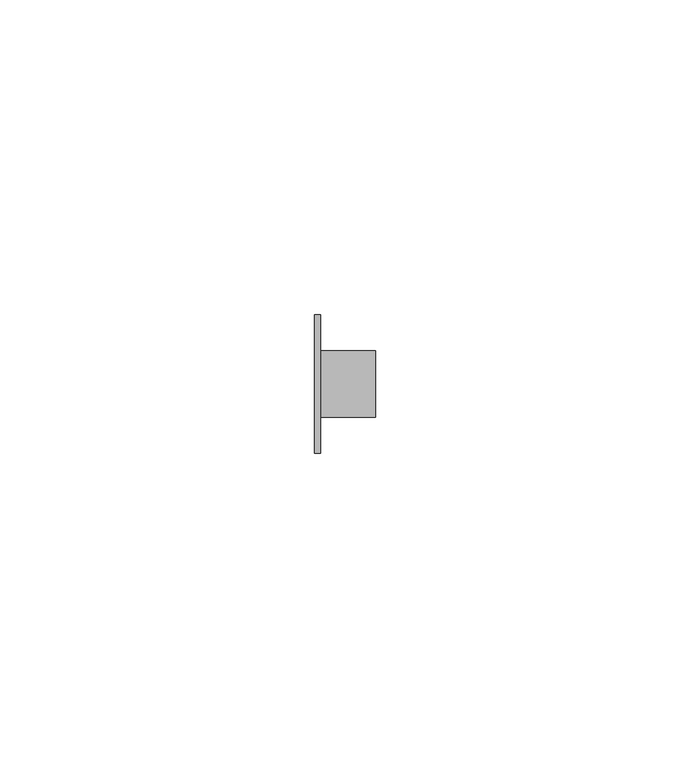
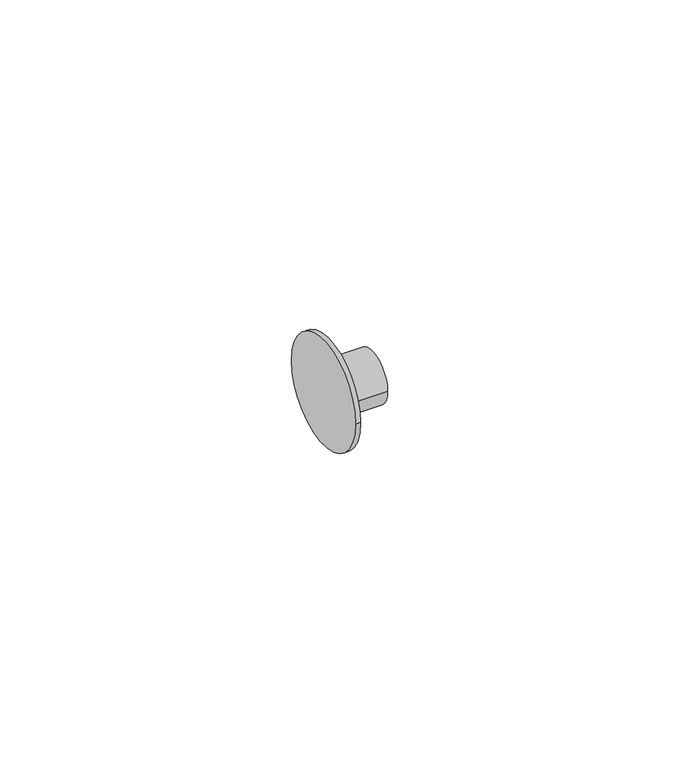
"""IFC4 building model written with IfcOpenShell, lengths in millimetres: pipe fitting geometry, Bucha de redução reta - Soldada - CU : Padrão."""

import ifcopenshell
import ifcopenshell.guid

model = None  # the IFC model being written
_history = None  # IfcOwnerHistory: only IFC2X3 demands one
_inside = {}  # id of a spatial element -> (the spatial element, [elements in it])
_under = {}  # id of a project, library or spatial element -> (it, [spatial elements below it])
_declared = {}  # id of a project -> (the project, [libraries it declares])
_typed = {}  # id of a type object -> (the type object, [elements of that type])
_made_of = {}  # id of a material, layer set ... -> (it, [elements and type objects made of it])


def new_model(schema):
    """Start an empty IFC model of exactly this schema.

    Asked for "IFC4X3", IfcOpenShell would pick the latest addendum, in which some entities
    have other attributes; the version numbers below select the first issue.
    IFC2X3 requires an IfcOwnerHistory on every rooted entity: one is made here for all.
    """
    global model, _history
    if schema == "IFC4X3":
        model = ifcopenshell.file(schema_version=(4, 3, 0, 0))
    else:
        model = ifcopenshell.file(schema=schema)
    _inside.clear()
    _under.clear()
    _declared.clear()
    _typed.clear()
    _made_of.clear()
    _history = None
    if model.schema == "IFC2X3":
        org = make("IfcOrganization", Name="unknown")
        user = make(
            "IfcPersonAndOrganization",
            ThePerson=make("IfcPerson", FamilyName="unknown"),
            TheOrganization=org,
        )
        app = make(
            "IfcApplication",
            ApplicationDeveloper=org,
            Version="unknown",
            ApplicationFullName="unknown",
            ApplicationIdentifier="unknown",
        )
        _history = make(
            "IfcOwnerHistory",
            OwningUser=user,
            OwningApplication=app,
            ChangeAction="ADDED",
            CreationDate=0,
        )
    return model


def make(cls, **values):
    """One entity of the class cls with the attributes given. An attribute that is None is left unset."""
    return model.create_entity(
        cls, **{name: value for name, value in values.items() if value is not None}
    )


def rooted(cls, **values):
    """An entity with a GlobalId (a new one), such as an element, a storey or a relation."""
    return make(cls, GlobalId=ifcopenshell.guid.new(), OwnerHistory=_history, **values)


def si_unit(unit_type, name, prefix=None):
    """IfcSIUnit, for example si_unit("LENGTHUNIT", "METRE", prefix="MILLI")."""
    return make("IfcSIUnit", UnitType=unit_type, Prefix=prefix, Name=name)


def assignment(units):
    """IfcUnitAssignment: the units of a project."""
    return None if units is None else make("IfcUnitAssignment", Units=units)


def point(xyz):
    """IfcCartesianPoint."""
    return None if xyz is None else make("IfcCartesianPoint", Coordinates=xyz)


def direction(xyz):
    """IfcDirection."""
    return None if xyz is None else make("IfcDirection", DirectionRatios=xyz)


def frame(location, z_axis=None, x_axis=None):
    """IfcAxis2Placement3D, a coordinate frame: its origin and axes. An axis left out is left unset."""
    return make(
        "IfcAxis2Placement3D",
        Location=point(location),
        Axis=direction(z_axis),
        RefDirection=direction(x_axis),
    )


def origin():
    """The frame at (0, 0, 0) with its axes left unset."""
    return frame((0.0, 0.0, 0.0))


def place(relative_to, where):
    """IfcLocalPlacement: puts the frame where relative to a parent placement (None: the world)."""
    return make(
        "IfcLocalPlacement", PlacementRelTo=relative_to, RelativePlacement=where
    )


def context(
    kind, dimensions, precision=None, world=None, true_north=None, identifier=None
):
    """IfcGeometricRepresentationContext, for example the 3D "Model" context."""
    return make(
        "IfcGeometricRepresentationContext",
        ContextIdentifier=identifier,
        ContextType=kind,
        CoordinateSpaceDimension=dimensions,
        Precision=precision,
        WorldCoordinateSystem=world,
        TrueNorth=true_north,
    )


def project(units=None, contexts=None):
    """IfcProject with its units and contexts."""
    return rooted(
        "IfcProject",
        Name="project",
        RepresentationContexts=contexts,
        UnitsInContext=assignment(units),
    )


def spatial(cls, under=None, at=None, **own):
    """A site, building, storey or space (cls), placed at a placement, below another one or the project."""
    s = rooted(cls, ObjectPlacement=at, **own)
    if under is not None:
        _under.setdefault(under.id(), (under, []))[1].append(s)
    return s


def circle_curve(where, radius):
    """IfcCircle in the frame where."""
    return make("IfcCircle", Position=where, Radius=radius)


def shape(context_of_items, identifier, shape_type, items):
    """IfcShapeRepresentation: the items that make up one representation, for example the "Body"."""
    return make(
        "IfcShapeRepresentation",
        ContextOfItems=context_of_items,
        RepresentationIdentifier=identifier,
        RepresentationType=shape_type,
        Items=items,
    )


def source(mapping_origin, context_of_items, identifier, shape_type, items):
    """IfcRepresentationMap: a shape defined once, which mapped items show again and again."""
    return make(
        "IfcRepresentationMap",
        MappingOrigin=mapping_origin,
        MappedRepresentation=shape(context_of_items, identifier, shape_type, items),
    )


def transform(
    local_origin,
    x_axis=None,
    y_axis=None,
    z_axis=None,
    scale=None,
    scale2=None,
    scale3=None,
    uniform=True,
):
    """IfcCartesianTransformationOperator3D, or its non-uniform kind. x_axis, y_axis, z_axis: its Axis1, 2, 3."""
    if uniform:
        return make(
            "IfcCartesianTransformationOperator3D",
            Axis1=direction(x_axis),
            Axis2=direction(y_axis),
            LocalOrigin=point(local_origin),
            Scale=scale,
            Axis3=direction(z_axis),
        )
    return make(
        "IfcCartesianTransformationOperator3DnonUniform",
        Axis1=direction(x_axis),
        Axis2=direction(y_axis),
        LocalOrigin=point(local_origin),
        Scale=scale,
        Axis3=direction(z_axis),
        Scale2=scale2,
        Scale3=scale3,
    )


def mapped(mapping_source, mapping_target):
    """IfcMappedItem: shows the shape of a source again, moved by a transform."""
    return make(
        "IfcMappedItem", MappingSource=mapping_source, MappingTarget=mapping_target
    )


def made_of(thing, what):
    """Note that an element or type object is made of a material, layer set ...; save() writes the relation."""
    if what is not None:
        _made_of.setdefault(what.id(), (what, []))[1].append(thing)
    return thing


def element(
    cls,
    number,
    at=None,
    inside=None,
    cuts=None,
    type_object=None,
    material=None,
    context=None,
    identifier="Body",
    shape_type=None,
    held_by="IfcProductDefinitionShape",
    body=None,
    shapes=None,
    **own,
):
    """One element of the class cls, such as IfcWall. Its Tag is "e" and its number.

    at: its placement. inside: the storey or other place that contains it. cuts: it is an
    opening in that element (IfcRelVoidsElement). A single representation is given by context,
    identifier, shape_type and body (its items); several are given by shapes. held_by: the class
    of the entity that holds the representations. save() writes the other relations.
    """
    e = rooted(cls, Tag="e%d" % number, ObjectPlacement=at, **own)
    if body is not None:
        shapes = [shape(context, identifier, shape_type, body)]
    if shapes is not None:
        e.Representation = make(held_by, Representations=shapes)
    if inside is not None:
        _inside.setdefault(inside.id(), (inside, []))[1].append(e)
    if cuts is not None:
        rooted(
            "IfcRelVoidsElement", RelatingBuildingElement=cuts, RelatedOpeningElement=e
        )
    if type_object is not None:
        _typed.setdefault(type_object.id(), (type_object, []))[1].append(e)
    return made_of(e, material)


def aggregate(whole, parts):
    """IfcRelAggregates: a whole, such as a stair, and the parts it consists of."""
    return rooted("IfcRelAggregates", RelatingObject=whole, RelatedObjects=parts)


def save(model, path):
    """Write the relations noted so far, then the file.

    IfcRelAggregates (storeys below a building ...), IfcRelContainedInSpatialStructure (elements
    in a storey), IfcRelDefinesByType, IfcRelAssociatesMaterial and IfcRelDeclares: one each for
    every whole, place, type object, material and project.
    """
    for whole, parts in _under.values():
        aggregate(whole, parts)
    for where, things in _inside.values():
        rooted(
            "IfcRelContainedInSpatialStructure",
            RelatedElements=things,
            RelatingStructure=where,
        )
    for kind, things in _typed.values():
        rooted("IfcRelDefinesByType", RelatedObjects=things, RelatingType=kind)
    for what, things in _made_of.values():
        rooted("IfcRelAssociatesMaterial", RelatedObjects=things, RelatingMaterial=what)
    for by, libraries in _declared.values():
        rooted("IfcRelDeclares", RelatingContext=by, RelatedDefinitions=libraries)
    model.write(path)


def plane_surface(at):
    """IfcPlane: the flat surface through the origin of the frame at, square to its z axis."""
    return make("IfcPlane", Position=at)


def cylinder_surface(at, radius):
    """IfcCylindricalSurface: all points at the distance radius from the z axis of the frame at."""
    return make("IfcCylindricalSurface", Position=at, Radius=radius)


def advanced_brep(points, edges, surfaces, faces):
    """IfcAdvancedBrep: a solid bounded by faces that lie on surfaces and meet in shared edges.

    An edge is (start, end): straight between two places in points (the first is 0);
    or (start, end, curve); or (start, end, curve, False) where it runs against its curve.
    A face is (place in surfaces, loops), or (place, loops, False) where it looks against
    its surface's normal. A loop lists edges by number (the first is 1), with a minus sign
    where the edge is run from its end to its start. The first loop is the outer one.
    """
    corners = [point(p) for p in points]
    vertices = [make("IfcVertexPoint", VertexGeometry=c) for c in corners]
    made = []
    for start, end, *more in edges:
        made.append(
            make(
                "IfcEdgeCurve",
                EdgeStart=vertices[start],
                EdgeEnd=vertices[end],
                EdgeGeometry=more[0] if more else make("IfcPolyline", Points=[corners[start], corners[end]]),
                SameSense=more[1] if len(more) > 1 else True,
            )
        )
    hull = []
    for where, loops, *sense in faces:
        bounds = []
        for j, loop in enumerate(loops):
            ring = [make("IfcOrientedEdge", EdgeElement=made[abs(k) - 1], Orientation=k > 0) for k in loop]
            bounds.append(
                make(
                    "IfcFaceOuterBound" if j == 0 else "IfcFaceBound",
                    Bound=make("IfcEdgeLoop", EdgeList=ring),
                    Orientation=True,
                )
            )
        hull.append(make("IfcAdvancedFace", Bounds=bounds, FaceSurface=surfaces[where], SameSense=sense[0] if sense else True))
    return make("IfcAdvancedBrep", Outer=make("IfcClosedShell", CfsFaces=hull))


def pipe_fitting_8959f397(model_context):
    return source(origin(), model_context, "Body", "AdvancedBrep", [
        advanced_brep(
        [(0.0, -11.01, 0.0), (0.0, 11.01, 0.0), (1.0, -11.01, 0.0), (1.0, 11.01, 0.0), (1.0, -5.2552, 0.0), (1.0, 5.2552, 0.0), (9.6744, -5.2552, 0.0), (9.6744, 5.2552, 0.0)],
        [
            (0, 1, circle_curve(frame((0.0, 0.0, 0.0), z_axis=(-1.0, 0.0, 0.0), x_axis=(0.0, 1.0, 0.0)), 11.01)),
            (1, 0, circle_curve(frame((0.0, 0.0, 0.0), z_axis=(-1.0, 0.0, 0.0), x_axis=(0.0, 1.0, 0.0)), 11.01)),
            (2, 3, circle_curve(frame((1.0, 0.0, 0.0), z_axis=(1.0, 0.0, 0.0), x_axis=(0.0, 1.0, 0.0)), 11.01)),
            (3, 2, circle_curve(frame((1.0, 0.0, 0.0), z_axis=(1.0, 0.0, 0.0), x_axis=(0.0, 1.0, 0.0)), 11.01)),
            (4, 5, circle_curve(frame((1.0, 0.0, 0.0), z_axis=(-1.0, 0.0, 0.0), x_axis=(0.0, 1.0, 0.0)), 5.2552)),
            (5, 4, circle_curve(frame((1.0, 0.0, 0.0), z_axis=(-1.0, 0.0, 0.0), x_axis=(0.0, 1.0, 0.0)), 5.2552)),
            (0, 2),
            (3, 1),
            (6, 7, circle_curve(frame((9.6744, 0.0, 0.0), z_axis=(1.0, 0.0, 0.0), x_axis=(0.0, 1.0, 0.0)), 5.2552)),
            (7, 6, circle_curve(frame((9.6744, 0.0, 0.0), z_axis=(1.0, 0.0, 0.0), x_axis=(0.0, 1.0, 0.0)), 5.2552)),
            (7, 5),
            (4, 6),
        ],
        [
            plane_surface(frame((0.0, 0.0, 0.0), z_axis=(-1.0, 0.0, 0.0), x_axis=(0.0, 0.0, 1.0))),
            plane_surface(frame((1.0, 0.0, 0.0), z_axis=(1.0, 0.0, 0.0), x_axis=(0.0, 0.0, 1.0))),
            cylinder_surface(frame((0.0, 0.0, 0.0), z_axis=(-1.0, 0.0, 0.0), x_axis=(0.0, 1.0, 0.0)), 11.01),
            plane_surface(frame((9.6744, 0.0, 0.0), z_axis=(1.0, 0.0, 0.0), x_axis=(0.0, 0.0, 1.0))),
            cylinder_surface(frame((1.0, 0.0, 0.0), z_axis=(-1.0, 0.0, 0.0), x_axis=(0.0, 1.0, 0.0)), 5.2552),
        ],
        [
            (0, [[1, 2]]),
            (1, [[3, 4], [5, 6]]),
            (2, [[-1, 7, -4, 8]]),
            (2, [[-2, -8, -3, -7]]),
            (3, [[9, 10]]),
            (4, [[-10, 11, -5, 12]]),
            (4, [[-9, -12, -6, -11]]),
        ],
    ),
    ])


if __name__ == "__main__":
    model = new_model("IFC4")
    model_context = context("Model", 3, world=origin())
    ifc_project = project(units=[si_unit("LENGTHUNIT", "METRE", prefix="MILLI")], contexts=[model_context])
    site = spatial("IfcSite", under=ifc_project)
    building = spatial("IfcBuilding", under=site)
    placement = place(None, origin())
    pipe_fitting_shape = pipe_fitting_8959f397(model_context)
    element("IfcPipeFitting", 1, ObjectType="Bucha de redução reta - Soldada - CU : Padrão", at=placement, inside=building, context=model_context, shape_type="MappedRepresentation", body=[
        mapped(pipe_fitting_shape, transform((0.0, 0.0, 0.0), x_axis=(1.0, 0.0, 0.0), y_axis=(0.0, 1.0, 0.0), z_axis=(0.0, 0.0, 1.0))),
    ])
    save(model, "model.ifc")
